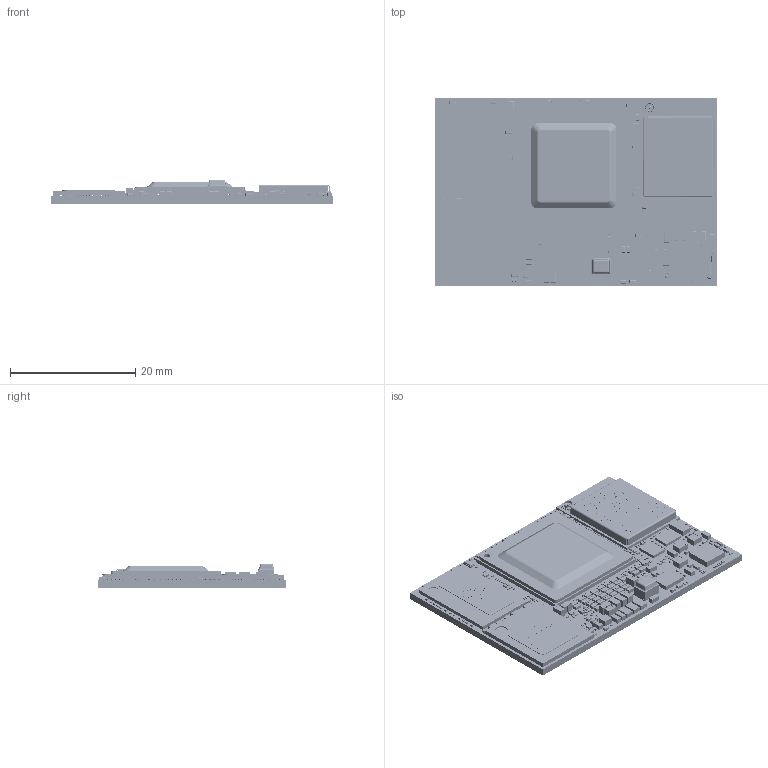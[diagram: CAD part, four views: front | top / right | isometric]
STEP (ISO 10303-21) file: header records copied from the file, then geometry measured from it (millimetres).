
FILE_DESCRIPTION (( 'STEP AP214' ), '1' );
FILE_NAME ('EZOMI-67A-0816-00184-2.STEP', '2026-05-20T07:01:01', ( '' ), ( '' ), 'SwSTEP 2.0', 'SolidWorks 2025', '' );
FILE_SCHEMA (( 'AUTOMOTIVE_DESIGN' ));
Length unit declared in the file: millimetre
Products named in the file (1): EZOMI-67A-0816-00184-2
Bounding box: 45 x 30 x 3.83 mm (x, y, z)
Surface area: 10228.9 mm2 (no closed solid volume)
Topology: 0 solids, 2717 shells, 30967 faces, 75440 edges, 47926 vertices
Faces by surface type: plane 25475, sphere 2250, cylinder 2152, bspline 1080, cone 10
Entity records: 1274797 total; most frequent: CARTESIAN_POINT 209020, ORIENTED_EDGE 144469, DIRECTION 135048, EDGE_CURVE 72305, VECTOR 64090, LINE 64090, VERTEX_POINT 47037, AXIS2_PLACEMENT_3D 35479
